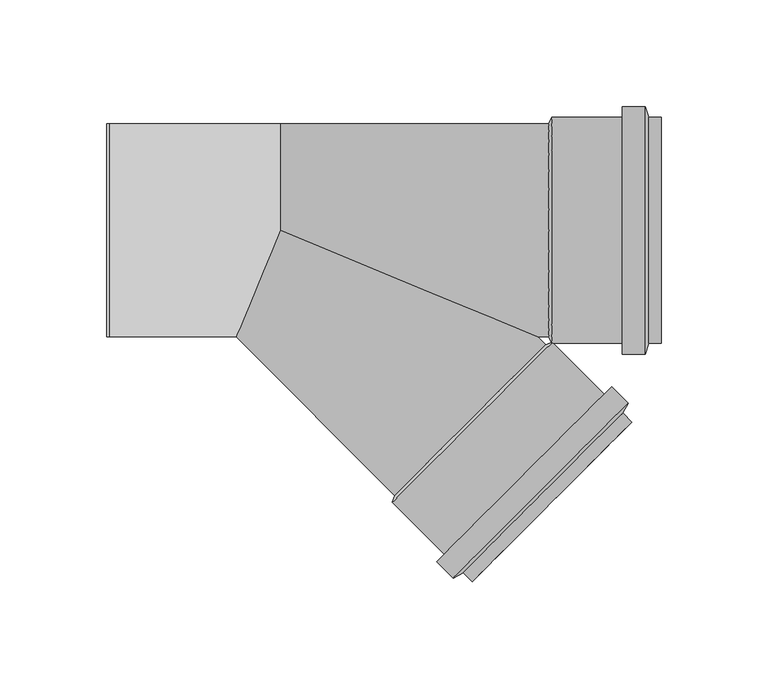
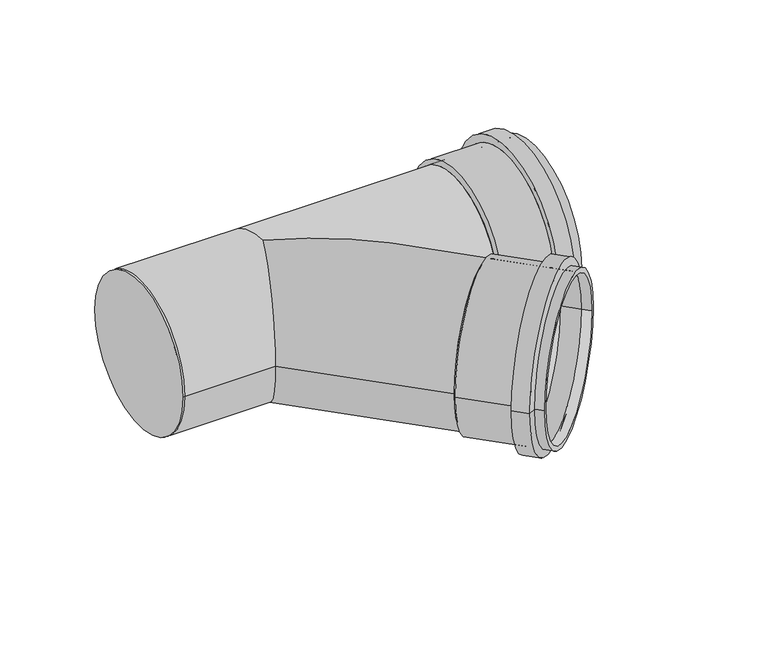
"""IFC4 building model written with IfcOpenShell, lengths in millimetres: pipe fitting geometry, Te_Juncao - Serie Normal - Esgoto : Te_Juncao - Serie Normal - Esgoto."""

from ifc_helpers import new_model, si_unit, frame, origin, place, context, project, spatial, polyline, circle_curve, ellipse_curve, source, transform, mapped, element, save
from ifc_brep_helpers import plane_surface, cylinder_surface, revolved_surface, advanced_brep


def pipe_fitting_2df96e2d(model_context):
    return source(origin(), model_context, "Body", "AdvancedBrep", [
        advanced_brep(
        [(127.35, -53.0, 0.0), (127.35, 53.0, 0.0), (125.9, -50.0, 0.0), (125.9, 50.0, 0.0)],
        [
            (0, 1, circle_curve(frame((127.35, 0.0, 0.0), z_axis=(1.0, 0.0, 0.0), x_axis=(0.0, -1.0, 0.0)), 53.0)),
            (1, 0, circle_curve(frame((127.35, 0.0, 0.0), z_axis=(1.0, 0.0, 0.0), x_axis=(0.0, 1.0, 0.0)), 53.0)),
            (2, 3, circle_curve(frame((125.9, 0.0, 0.0), z_axis=(-1.0, 0.0, 0.0), x_axis=(0.0, 1.0, 0.0)), 50.0)),
            (3, 2, circle_curve(frame((125.9, 0.0, 0.0), z_axis=(-1.0, 0.0, 0.0), x_axis=(0.0, -1.0, 0.0)), 50.0)),
            (3, 1),
            (0, 2),
        ],
        [
            plane_surface(frame((127.35, 0.0, 0.0), z_axis=(1.0, 0.0, 0.0), x_axis=(0.0, 0.0, -1.0))),
            plane_surface(frame((125.9, 0.0, 0.0), z_axis=(-1.0, 0.0, 0.0), x_axis=(0.0, 0.0, -1.0))),
            revolved_surface(polyline([(125.9, 50.00000000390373, 0.0), (127.35, 53.0, 0.0)]), (101.7333333, 0.0, 0.0), (1.0, 0.0, 0.0)),
            revolved_surface(polyline([(125.9, -50.00000000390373, 0.0), (127.35, -53.0, 0.0)]), (101.7333333, 0.0, 0.0), (1.0, 0.0, 0.0)),
        ],
        [
            (0, [[1, 2]]),
            (1, [[3, 4]]),
            (2, [[-4, 5, -1, 6]]),
            (3, [[-3, -6, -2, -5]]),
        ],
    ),
        advanced_brep(
        [(178.7, -53.0, 0.0), (178.7, 53.0, 0.0), (178.7, -50.0, 0.0), (178.7, 50.0, 0.0), (172.7, 53.0, 0.0), (172.7, -53.0, 0.0), (172.7, 50.0, 0.0), (172.7, -50.0, 0.0), (171.25, 58.0, 0.0), (171.25, -58.0, 0.0), (171.25, 50.0, 0.0), (171.25, -50.0, 0.0), (160.25, -58.0, 0.0), (160.25, 58.0, 0.0), (160.25, -53.0, 0.0), (160.25, 53.0, 0.0), (160.25, -50.0, 0.0), (160.25, 50.0, 0.0), (127.35, 53.0, 0.0), (127.35, -53.0, 0.0), (127.35, -50.0, 0.0), (127.35, 50.0, 0.0)],
        [
            (0, 1, circle_curve(frame((178.7, 0.0, 0.0), z_axis=(1.0, 0.0, 0.0), x_axis=(0.0, 1.0, 0.0)), 53.0)),
            (1, 0, circle_curve(frame((178.7, 0.0, 0.0), z_axis=(1.0, 0.0, 0.0), x_axis=(0.0, 1.0, 0.0)), 53.0)),
            (2, 3, circle_curve(frame((178.7, 0.0, 0.0), z_axis=(-1.0, 0.0, 0.0), x_axis=(0.0, 1.0, 0.0)), 50.0)),
            (3, 2, circle_curve(frame((178.7, 0.0, 0.0), z_axis=(-1.0, 0.0, 0.0), x_axis=(0.0, 1.0, 0.0)), 50.0)),
            (1, 4),
            (4, 5, circle_curve(frame((172.7, 0.0, 0.0), z_axis=(1.0, 0.0, 0.0), x_axis=(0.0, 1.0, 0.0)), 53.0)),
            (5, 0),
            (5, 4, circle_curve(frame((172.7, 0.0, 0.0), z_axis=(1.0, 0.0, 0.0), x_axis=(0.0, 1.0, 0.0)), 53.0)),
            (3, 6),
            (6, 7, circle_curve(frame((172.7, 0.0, 0.0), z_axis=(-1.0, 0.0, 0.0), x_axis=(0.0, 1.0, 0.0)), 50.0)),
            (7, 2),
            (7, 6, circle_curve(frame((172.7, 0.0, 0.0), z_axis=(-1.0, 0.0, 0.0), x_axis=(0.0, 1.0, 0.0)), 50.0)),
            (8, 4),
            (5, 9),
            (9, 8, circle_curve(frame((171.25, 0.0, 0.0), z_axis=(1.0, 0.0, 0.0), x_axis=(0.0, -1.0, 0.0)), 58.0)),
            (8, 9, circle_curve(frame((171.25, 0.0, 0.0), z_axis=(1.0, 0.0, 0.0), x_axis=(0.0, 1.0, 0.0)), 58.0)),
            (10, 6),
            (7, 11),
            (11, 10, circle_curve(frame((171.25, 0.0, 0.0), z_axis=(-1.0, 0.0, 0.0), x_axis=(0.0, 1.0, 0.0)), 50.0)),
            (10, 11, circle_curve(frame((171.25, 0.0, 0.0), z_axis=(-1.0, 0.0, 0.0), x_axis=(0.0, 1.0, 0.0)), 50.0)),
            (12, 13, circle_curve(frame((160.25, 0.0, 0.0), z_axis=(-1.0, 0.0, 0.0), x_axis=(0.0, 1.0, 0.0)), 58.0)),
            (13, 12, circle_curve(frame((160.25, 0.0, 0.0), z_axis=(-1.0, 0.0, 0.0), x_axis=(0.0, 1.0, 0.0)), 58.0)),
            (14, 15, circle_curve(frame((160.25, 0.0, 0.0), z_axis=(1.0, 0.0, 0.0), x_axis=(0.0, 1.0, 0.0)), 53.0)),
            (15, 14, circle_curve(frame((160.25, 0.0, 0.0), z_axis=(1.0, 0.0, 0.0), x_axis=(0.0, 1.0, 0.0)), 53.0)),
            (12, 9),
            (8, 13),
            (16, 11),
            (10, 17),
            (17, 16, circle_curve(frame((160.25, 0.0, 0.0), z_axis=(-1.0, 0.0, 0.0), x_axis=(0.0, 1.0, 0.0)), 50.0)),
            (16, 17, circle_curve(frame((160.25, 0.0, 0.0), z_axis=(-1.0, 0.0, 0.0), x_axis=(0.0, 1.0, 0.0)), 50.0)),
            (18, 19, circle_curve(frame((127.35, 0.0, 0.0), z_axis=(-1.0, 0.0, 0.0), x_axis=(0.0, 1.0, 0.0)), 53.0)),
            (19, 18, circle_curve(frame((127.35, 0.0, 0.0), z_axis=(-1.0, 0.0, 0.0), x_axis=(0.0, 1.0, 0.0)), 53.0)),
            (20, 21, circle_curve(frame((127.35, 0.0, 0.0), z_axis=(1.0, 0.0, 0.0), x_axis=(0.0, 1.0, 0.0)), 50.0)),
            (21, 20, circle_curve(frame((127.35, 0.0, 0.0), z_axis=(1.0, 0.0, 0.0), x_axis=(0.0, 1.0, 0.0)), 50.0)),
            (18, 15),
            (14, 19),
            (20, 16),
            (17, 21),
        ],
        [
            plane_surface(frame((178.7, 0.0, 0.0), z_axis=(1.0, 0.0, 0.0), x_axis=(0.0, 0.0, 1.0))),
            cylinder_surface(frame((172.7, 0.0, 0.0), z_axis=(-1.0, 0.0, 0.0), x_axis=(0.0, 1.0, 0.0)), 53.0),
            revolved_surface(polyline([(178.7, 50.0, 0.0), (172.7, 50.0, 0.0)]), (172.7, 0.0, 0.0), (1.0, 0.0, 0.0)),
            revolved_surface(polyline([(172.7, 53.000000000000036, 0.0), (171.25, 58.0, 0.0)]), (188.07, 0.0, 0.0), (-1.0, 0.0, 0.0)),
            revolved_surface(polyline([(171.25, 50.0, 0.0), (172.7, 50.0, 0.0)]), (171.25, 0.0, 0.0), (-1.0, 0.0, 0.0)),
            plane_surface(frame((160.25, 0.0, 0.0), z_axis=(-1.0, 0.0, 0.0), x_axis=(0.0, 0.0, 1.0))),
            cylinder_surface(frame((160.25, 0.0, 0.0), z_axis=(-1.0, 0.0, 0.0), x_axis=(0.0, 1.0, 0.0)), 58.0),
            revolved_surface(polyline([(171.25, 50.0, 0.0), (160.25, 50.0, 0.0)]), (160.25, 0.0, 0.0), (1.0, 0.0, 0.0)),
            plane_surface(frame((127.35, 0.0, 0.0), z_axis=(-1.0, 0.0, 0.0), x_axis=(0.0, 0.0, 1.0))),
            cylinder_surface(frame((127.35, 0.0, 0.0), z_axis=(-1.0, 0.0, 0.0), x_axis=(0.0, 1.0, 0.0)), 53.0),
            revolved_surface(polyline([(160.25, 50.0, 0.0), (127.35, 50.0, 0.0)]), (127.35, 0.0, 0.0), (1.0, 0.0, 0.0)),
        ],
        [
            (0, [[1, 2], [3, 4]]),
            (1, [[-2, 5, 6, 7]]),
            (1, [[-1, -7, 8, -5]]),
            (2, [[-4, 9, 10, 11]]),
            (2, [[-3, -11, 12, -9]]),
            (3, [[13, -8, 14, 15]]),
            (3, [[-13, 16, -14, -6]]),
            (4, [[17, -12, 18, 19]]),
            (4, [[-17, 20, -18, -10]]),
            (5, [[21, 22], [23, 24]]),
            (6, [[-21, 25, -16, 26]]),
            (6, [[-22, -26, -15, -25]]),
            (7, [[27, -20, 28, 29]]),
            (7, [[-27, 30, -28, -19]]),
            (8, [[31, 32], [33, 34]]),
            (9, [[-31, 35, -23, 36]]),
            (9, [[-32, -36, -24, -35]]),
            (10, [[-33, 37, -29, 38]]),
            (10, [[-34, -38, -30, -37]]),
        ],
    ),
        advanced_brep(
        [(52.5814636, -127.523379, 0.0), (76.8721194, -151.810959, 0.0), (151.8206923, -76.8528945, 0.0), (127.5300365, -52.5653145, 0.0), (125.4088505, -54.6867692, 0.0), (149.6995062, -78.9743492, 0.0), (78.9933054, -149.6895043, 0.0), (54.7026496, -125.4019243, 0.0), (124.3834807, -53.6615293, 0.0), (53.6772799, -124.3766844, 0.0), (164.8676384, -89.8981886, 0.0), (89.9190655, -164.856253, 0.0), (162.7464524, -92.0196432, 0.0), (92.0402515, -162.7347984, 0.0), (85.6761562, -160.613881, 0.0), (160.6247291, -85.6558165, 0.0), (87.7973422, -158.4924263, 0.0), (158.5035431, -87.7772712, 0.0), (163.1346694, -81.0948189, 0.0), (81.1154764, -163.1243988, 0.0), (73.3368093, -155.3467167, 0.0), (155.3560023, -73.3171368, 0.0)],
        [
            (0, 1),
            (1, 2, circle_curve(frame((114.3464058, -114.3319267, 0.0), z_axis=(-0.7071515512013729, 0.7070620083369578, 0.0), x_axis=(0.7070620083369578, 0.7071515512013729, 0.0)), 53.0)),
            (2, 3),
            (3, 0, circle_curve(frame((90.05575, -90.0443468, 0.0), z_axis=(0.7071515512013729, -0.7070620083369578, 0.0), x_axis=(0.7070620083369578, 0.7071515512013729, 0.0)), 53.0)),
            (0, 3, circle_curve(frame((90.05575, -90.0443468, 0.0), z_axis=(0.7071515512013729, -0.7070620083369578, 0.0), x_axis=(0.7070620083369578, 0.7071515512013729, 0.0)), 53.0)),
            (2, 1, circle_curve(frame((114.3464058, -114.3319267, 0.0), z_axis=(-0.7071515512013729, 0.7070620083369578, 0.0), x_axis=(0.7070620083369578, 0.7071515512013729, 0.0)), 53.0)),
            (4, 5),
            (5, 6, circle_curve(frame((114.3464058, -114.3319267, 0.0), z_axis=(0.7071515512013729, -0.7070620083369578, 0.0), x_axis=(0.7070620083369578, 0.7071515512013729, 0.0)), 50.0)),
            (6, 7),
            (7, 4, circle_curve(frame((90.05575, -90.0443468, 0.0), z_axis=(-0.7071515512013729, 0.7070620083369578, 0.0), x_axis=(0.7070620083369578, 0.7071515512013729, 0.0)), 50.0)),
            (4, 7, circle_curve(frame((90.05575, -90.0443468, 0.0), z_axis=(-0.7071515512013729, 0.7070620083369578, 0.0), x_axis=(0.7070620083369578, 0.7071515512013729, 0.0)), 50.0)),
            (6, 5, circle_curve(frame((114.3464058, -114.3319267, 0.0), z_axis=(0.7071515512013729, -0.7070620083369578, 0.0), x_axis=(0.7070620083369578, 0.7071515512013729, 0.0)), 50.0)),
            (8, 9, circle_curve(frame((89.0303803, -89.0191068, 0.0), z_axis=(-0.7071515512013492, 0.7070620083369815, 0.0), x_axis=(-0.7070620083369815, -0.7071515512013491, 0.0)), 50.0)),
            (9, 8, circle_curve(frame((89.0303803, -89.0191068, 0.0), z_axis=(-0.7071515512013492, 0.7070620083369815, 0.0), x_axis=(0.7070620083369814, 0.7071515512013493, 0.0)), 50.0)),
            (9, 0),
            (3, 8),
            (10, 11, circle_curve(frame((127.3933519, -127.3772208, 0.0), z_axis=(0.7071515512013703, -0.7070620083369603, 0.0), x_axis=(0.7070620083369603, 0.7071515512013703, 0.0)), 53.0)),
            (11, 10, circle_curve(frame((127.3933519, -127.3772208, 0.0), z_axis=(0.7071515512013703, -0.7070620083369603, 0.0), x_axis=(0.7070620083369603, 0.7071515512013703, 0.0)), 53.0)),
            (12, 13, circle_curve(frame((127.3933519, -127.3772208, 0.0), z_axis=(-0.7071515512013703, 0.7070620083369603, 0.0), x_axis=(0.7070620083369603, 0.7071515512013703, 0.0)), 50.0)),
            (13, 12, circle_curve(frame((127.3933519, -127.3772208, 0.0), z_axis=(-0.7071515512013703, 0.7070620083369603, 0.0), x_axis=(0.7070620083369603, 0.7071515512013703, 0.0)), 50.0)),
            (11, 14),
            (14, 15, circle_curve(frame((123.1504426, -123.1348488, 0.0), z_axis=(0.7071515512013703, -0.7070620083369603, 0.0), x_axis=(0.7070620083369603, 0.7071515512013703, 0.0)), 53.0)),
            (15, 10),
            (15, 14, circle_curve(frame((123.1504426, -123.1348488, 0.0), z_axis=(0.7071515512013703, -0.7070620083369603, 0.0), x_axis=(0.7070620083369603, 0.7071515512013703, 0.0)), 53.0)),
            (13, 16),
            (16, 17, circle_curve(frame((123.1504426, -123.1348488, 0.0), z_axis=(-0.7071515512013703, 0.7070620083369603, 0.0), x_axis=(0.7070620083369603, 0.7071515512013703, 0.0)), 50.0)),
            (17, 12),
            (17, 16, circle_curve(frame((123.1504426, -123.1348488, 0.0), z_axis=(-0.7071515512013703, 0.7070620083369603, 0.0), x_axis=(0.7070620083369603, 0.7071515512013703, 0.0)), 50.0)),
            (18, 15),
            (14, 19),
            (19, 18, circle_curve(frame((122.1250729, -122.1096088, 0.0), z_axis=(0.70715155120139, -0.7070620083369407, 0.0), x_axis=(-0.7070620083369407, -0.70715155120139, 0.0)), 58.0)),
            (18, 19, circle_curve(frame((122.1250729, -122.1096088, 0.0), z_axis=(0.70715155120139, -0.7070620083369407, 0.0), x_axis=(0.7070620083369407, 0.70715155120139, 0.0)), 58.0)),
            (5, 17),
            (16, 6),
            (20, 21, circle_curve(frame((114.3464058, -114.3319267, 0.0), z_axis=(-0.7071515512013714, 0.7070620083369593, 0.0), x_axis=(0.7070620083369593, 0.7071515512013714, 0.0)), 58.0)),
            (21, 20, circle_curve(frame((114.3464058, -114.3319267, 0.0), z_axis=(-0.7071515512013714, 0.7070620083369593, 0.0), x_axis=(0.7070620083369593, 0.7071515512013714, 0.0)), 58.0)),
            (20, 19),
            (18, 21),
        ],
        [
            cylinder_surface(frame((90.05575, -90.0443468, 0.0), z_axis=(-0.7071515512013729, 0.7070620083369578, 0.0), x_axis=(0.7070620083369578, 0.7071515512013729, 0.0)), 53.0),
            revolved_surface(polyline([(149.69950619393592, -78.9743492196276, 0.0), (125.40885039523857, -54.686769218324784, 0.0)]), (90.05575, -90.0443468, 0.0), (0.7071515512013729, -0.7070620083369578, 0.0)),
            plane_surface(frame((90.05575, -90.0443468, 0.0), z_axis=(0.7071515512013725, -0.7070620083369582, 0.0), x_axis=(0.0, 0.0, -1.0))),
            plane_surface(frame((89.0303803, -89.0191068, 0.0), z_axis=(-0.7071515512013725, 0.7070620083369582, 0.0), x_axis=(0.0, 0.0, 1.0))),
            revolved_surface(polyline([(53.67727991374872, -124.3766843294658, 0.0), (52.5814636, -127.523379, 0.0)]), (71.9408845, -71.931775, 0.0), (0.7071515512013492, -0.7070620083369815, 0.0)),
            revolved_surface(polyline([(124.38348070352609, -53.661529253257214, 0.0), (127.53003658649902, -52.56531446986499, 0.0)]), (71.9408845, -71.931775, 0.0), (0.7071515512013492, -0.7070620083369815, 0.0)),
            plane_surface(frame((127.3933519, -127.3772208, 0.0), z_axis=(0.7071515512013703, -0.7070620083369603, 0.0), x_axis=(0.0, 0.0, 1.0))),
            cylinder_surface(frame((123.1504426, -123.1348488, 0.0), z_axis=(-0.7071515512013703, 0.7070620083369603, 0.0), x_axis=(0.7070620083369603, 0.7071515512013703, 0.0)), 53.0),
            revolved_surface(polyline([(162.74645232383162, -92.01964328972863, 0.0), (158.50354299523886, -87.77727121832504, 0.0)]), (123.1504426, -123.1348488, 0.0), (0.7071515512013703, -0.7070620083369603, 0.0)),
            revolved_surface(polyline([(160.62472912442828, -85.65581653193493, 0.0), (163.13466950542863, -81.09481870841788, 0.0)]), (134.019362, -134.0023918, 0.0), (-0.70715155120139, 0.7070620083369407, 0.0)),
            revolved_surface(polyline([(149.69950616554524, -78.9743491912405, 0.0), (158.50354304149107, -87.77727125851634, 0.0)]), (90.05575, -90.0443468, 0.0), (-0.7071515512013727, 0.7070620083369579, 0.0)),
            plane_surface(frame((114.3464058, -114.3319267, 0.0), z_axis=(-0.7071515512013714, 0.7070620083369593, 0.0), x_axis=(0.0, 0.0, 1.0))),
            cylinder_surface(frame((114.3464058, -114.3319267, 0.0), z_axis=(-0.7071515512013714, 0.7070620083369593, 0.0), x_axis=(0.7070620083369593, 0.7071515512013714, 0.0)), 58.0),
        ],
        [
            (0, [[1, 2, 3, 4]]),
            (0, [[-1, 5, -3, 6]]),
            (1, [[7, 8, 9, 10]]),
            (1, [[-7, 11, -9, 12]]),
            (2, [[-10, -11]]),
            (3, [[13, 14]]),
            (4, [[-14, 15, -4, 16]]),
            (5, [[-13, -16, -5, -15]]),
            (6, [[17, 18], [19, 20]]),
            (7, [[-18, 21, 22, 23]]),
            (7, [[-17, -23, 24, -21]]),
            (8, [[-20, 25, 26, 27]]),
            (8, [[-19, -27, 28, -25]]),
            (9, [[29, -22, 30, 31]]),
            (9, [[-29, 32, -30, -24]]),
            (10, [[33, -26, 34, -8]]),
            (10, [[-33, -12, -34, -28]]),
            (11, [[35, 36], [-2, -6]]),
            (12, [[-35, 37, -32, 38]]),
            (12, [[-36, -38, -31, -37]]),
        ],
    ),
        advanced_brep(
        [(0.0, 50.0, 0.0), (-80.0, 50.0, 0.0), (-80.0, -50.0, 0.0), (-20.7088236, -50.0, 0.0), (0.0, 0.0, 50.0), (0.0, 0.0, -50.0), (53.6772799, -124.3766844, 0.0), (124.3834807, -53.6615293, 0.0), (120.7214877, -50.0, 0.0), (125.9, 50.0, 0.0), (125.9, -50.0, 0.0), (127.35, -50.0, 0.0), (127.35, 50.0, 0.0), (-81.45, 50.0, 0.0), (-81.45, -50.0, 0.0)],
        [
            (0, 1),
            (1, 2, circle_curve(frame((-80.0, 0.0, 0.0), z_axis=(1.0, 0.0, 0.0), x_axis=(0.0, -1.0, 0.0)), 50.0)),
            (2, 3),
            (3, 4, ellipse_curve(frame((0.0, 0.0, 0.0), z_axis=(-0.9238916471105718, 0.38265418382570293, 0.0), x_axis=(0.3826541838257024, 0.923891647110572, 0.0)), 54.1189004, 50.0)),
            (4, 0, circle_curve(frame((0.0, 0.0, 0.0), z_axis=(-1.0, 0.0, 0.0), x_axis=(0.0, -1.0, 0.0)), 50.0)),
            (0, 5, circle_curve(frame((0.0, 0.0, 0.0), z_axis=(-1.0, 0.0, 0.0), x_axis=(0.0, -1.0, 0.0)), 50.0)),
            (5, 3, ellipse_curve(frame((0.0, 0.0, 0.0), z_axis=(-0.9238916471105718, 0.38265418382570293, 0.0), x_axis=(0.3826541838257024, 0.923891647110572, 0.0)), 54.1189004, 50.0)),
            (2, 1, circle_curve(frame((-80.0, 0.0, 0.0), z_axis=(1.0, 0.0, 0.0), x_axis=(0.0, -1.0, 0.0)), 50.0)),
            (6, 7, circle_curve(frame((89.0303803, -89.0191068, 0.0), z_axis=(0.7071515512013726, -0.707062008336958, 0.0), x_axis=(0.707062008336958, 0.7071515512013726, 0.0)), 50.0)),
            (7, 6, circle_curve(frame((89.0303803, -89.0191068, 0.0), z_axis=(0.7071515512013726, -0.707062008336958, 0.0), x_axis=(0.707062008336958, 0.7071515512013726, 0.0)), 50.0)),
            (7, 8),
            (8, 4, ellipse_curve(frame((0.0, 0.0, 0.0), z_axis=(-0.3826541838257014, -0.9238916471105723, 0.0), x_axis=(-0.9238916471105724, 0.38265418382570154, 0.0)), 130.6662833, 50.0)),
            (3, 6),
            (5, 8, ellipse_curve(frame((0.0, 0.0, 0.0), z_axis=(-0.3826541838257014, -0.9238916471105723, 0.0), x_axis=(-0.9238916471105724, 0.38265418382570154, 0.0)), 130.6662833, 50.0)),
            (9, 0),
            (8, 10),
            (10, 9, circle_curve(frame((125.9, 0.0, 0.0), z_axis=(-1.0, 0.0, 0.0), x_axis=(0.0, 1.0, 0.0)), 50.0)),
            (9, 10, circle_curve(frame((125.9, 0.0, 0.0), z_axis=(-1.0, 0.0, 0.0), x_axis=(0.0, 1.0, 0.0)), 50.0)),
            (11, 12, circle_curve(frame((127.35, 0.0, 0.0), z_axis=(1.0, 0.0, 0.0), x_axis=(0.0, 1.0, 0.0)), 50.0)),
            (12, 11, circle_curve(frame((127.35, 0.0, 0.0), z_axis=(1.0, 0.0, 0.0), x_axis=(0.0, 1.0, 0.0)), 50.0)),
            (12, 9),
            (10, 11),
            (13, 14, circle_curve(frame((-81.45, 0.0, 0.0), z_axis=(-1.0, 0.0, 0.0), x_axis=(0.0, -1.0, 0.0)), 50.0)),
            (14, 13, circle_curve(frame((-81.45, 0.0, 0.0), z_axis=(-1.0, 0.0, 0.0), x_axis=(0.0, -1.0, 0.0)), 50.0)),
            (14, 2),
            (1, 13),
        ],
        [
            cylinder_surface(frame((0.0, 0.0, 0.0), z_axis=(1.0, 0.0, 0.0), x_axis=(0.0, -1.0, 0.0)), 50.0),
            plane_surface(frame((89.0303803, -89.0191068, 0.0), z_axis=(0.7071515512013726, -0.707062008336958, 0.0), x_axis=(0.0, 0.0, 1.0))),
            cylinder_surface(frame((0.0, 0.0, 0.0), z_axis=(-0.7071515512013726, 0.707062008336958, 0.0), x_axis=(0.707062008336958, 0.7071515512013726, 0.0)), 50.0),
            cylinder_surface(frame((0.0, 0.0, 0.0), z_axis=(-1.0, 0.0, 0.0), x_axis=(0.0, 1.0, 0.0)), 50.0),
            plane_surface(frame((127.35, 0.0, 0.0), z_axis=(1.0, 0.0, 0.0), x_axis=(0.0, 0.0, 1.0))),
            cylinder_surface(frame((125.9, 0.0, 0.0), z_axis=(-1.0, 0.0, 0.0), x_axis=(0.0, 1.0, 0.0)), 50.0),
            plane_surface(frame((-81.45, 0.0, 0.0), z_axis=(-1.0, 0.0, 0.0), x_axis=(0.0, 0.0, 1.0))),
            cylinder_surface(frame((-80.0, 0.0, 0.0), z_axis=(1.0, 0.0, 0.0), x_axis=(0.0, -1.0, 0.0)), 50.0),
        ],
        [
            (0, [[1, 2, 3, 4, 5]]),
            (0, [[-1, 6, 7, -3, 8]]),
            (1, [[9, 10]]),
            (2, [[-10, 11, 12, -4, 13]]),
            (2, [[-9, -13, -7, 14, -11]]),
            (3, [[15, -5, -12, 16, 17]]),
            (3, [[-15, 18, -16, -14, -6]]),
            (4, [[19, 20]]),
            (5, [[-20, 21, -17, 22]]),
            (5, [[-19, -22, -18, -21]]),
            (6, [[23, 24]]),
            (7, [[-24, 25, -2, 26]]),
            (7, [[-23, -26, -8, -25]]),
        ],
    ),
    ])


if __name__ == "__main__":
    model = new_model("IFC4")
    model_context = context("Model", 3, world=origin())
    ifc_project = project(units=[si_unit("LENGTHUNIT", "METRE", prefix="MILLI")], contexts=[model_context])
    site = spatial("IfcSite", under=ifc_project)
    building = spatial("IfcBuilding", under=site)
    placement = place(None, origin())
    pipe_fitting_shape = pipe_fitting_2df96e2d(model_context)
    element("IfcPipeFitting", 1, ObjectType="Te_Juncao - Serie Normal - Esgoto : Te_Juncao - Serie Normal - Esgoto", at=placement, inside=building, context=model_context, shape_type="MappedRepresentation", body=[
        mapped(pipe_fitting_shape, transform((0.0, 0.0, 0.0), x_axis=(1.0, 0.0, 0.0), y_axis=(0.0, 1.0, 0.0), z_axis=(0.0, 0.0, 1.0))),
    ])
    save(model, "model.ifc")
